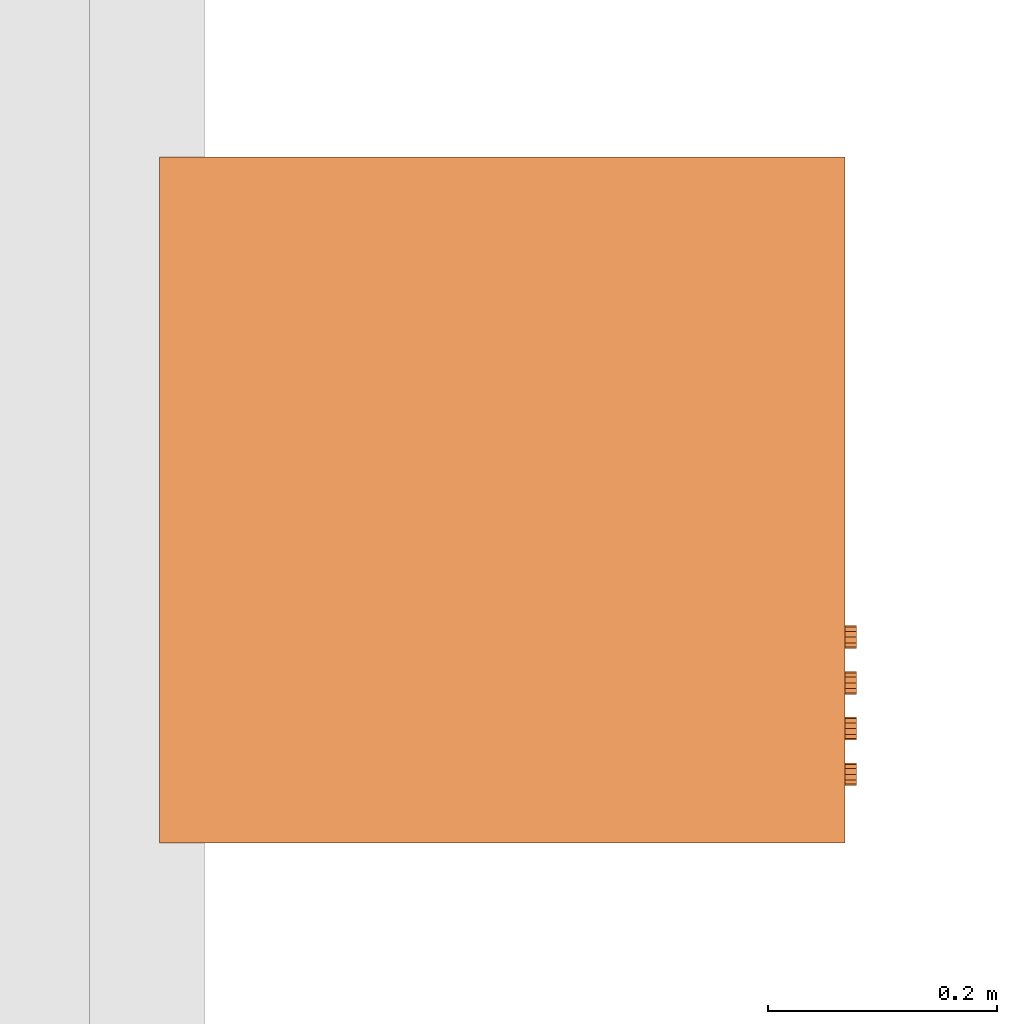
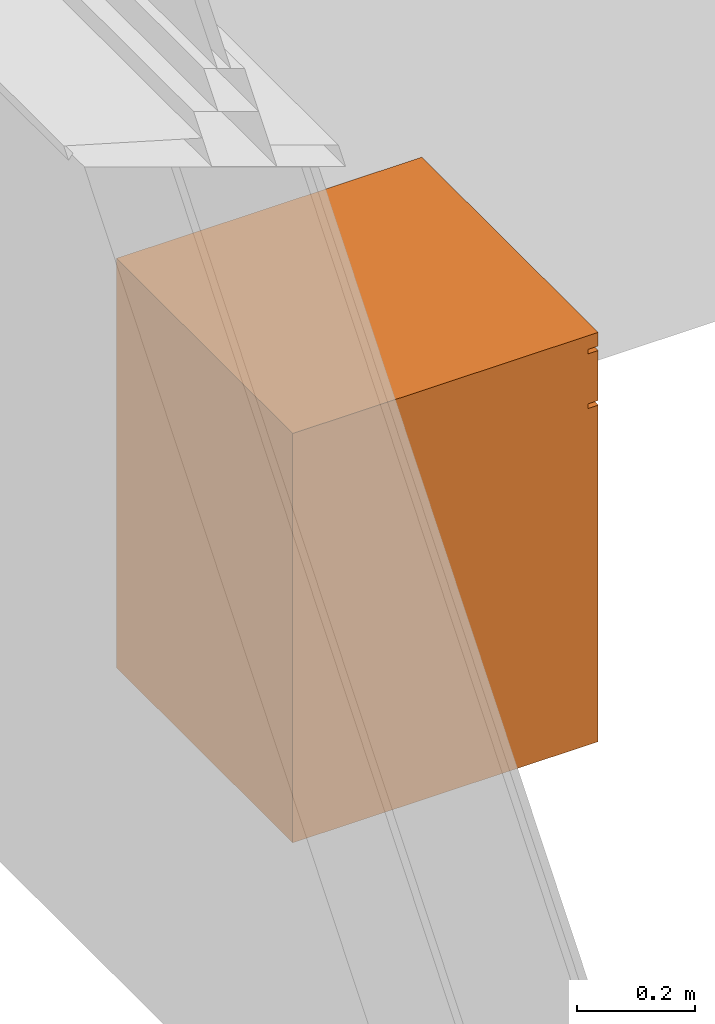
# One storey, part 6 of 6: 1 proxy.
"""IFC2X3 building model written with IfcOpenShell, lengths in millimetres."""

from ifc_helpers import new_model, entity, si_unit, converted_unit, derived_unit, money_unit, direction, frame, origin_with_axes, place, context, subcontext, project, spatial, open_shell, faceted_brep, surface_model, type_object, element, save


model = new_model("IFC2X3")

# Units and contexts
model_context = context("Model", 3, precision=0.01, world=origin_with_axes(), true_north=direction((0.0, 1.0)))
body_context = subcontext(model_context, "Body", "Model", "MODEL_VIEW")
ifc_project = project(units=[si_unit("LENGTHUNIT", "METRE", prefix="MILLI"), si_unit("AREAUNIT", "SQUARE_METRE"), si_unit("VOLUMEUNIT", "CUBIC_METRE"), converted_unit("PLANEANGLEUNIT", "DEGREE", entity("IfcPlaneAngleMeasure", 0.0174532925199), si_unit("PLANEANGLEUNIT", "RADIAN"), dimensions=[0, 0, 0, 0, 0, 0, 0]), si_unit("SOLIDANGLEUNIT", "STERADIAN"), money_unit("USD"), converted_unit("TIMEUNIT", "Year", entity("IfcTimeMeasure", 31556926.0), si_unit("TIMEUNIT", "SECOND"), dimensions=[0, 0, 1, 0, 0, 0, 0]), si_unit("MASSUNIT", "GRAM", prefix="KILO"), si_unit("THERMODYNAMICTEMPERATUREUNIT", "DEGREE_CELSIUS"), si_unit("LUMINOUSINTENSITYUNIT", "LUMEN"), si_unit("ENERGYUNIT", "JOULE", prefix="MEGA"), derived_unit("THERMALCONDUCTANCEUNIT", [(si_unit("POWERUNIT", "WATT"), 1), (si_unit("LENGTHUNIT", "METRE"), -1), (si_unit("THERMODYNAMICTEMPERATUREUNIT", "KELVIN"), -1)]), derived_unit("SPECIFICHEATCAPACITYUNIT", [(si_unit("ENERGYUNIT", "JOULE"), 1), (si_unit("MASSUNIT", "GRAM", prefix="KILO"), -1), (si_unit("THERMODYNAMICTEMPERATUREUNIT", "KELVIN"), -1)]), derived_unit("MASSDENSITYUNIT", [(si_unit("MASSUNIT", "GRAM", prefix="KILO"), 1), (si_unit("VOLUMEUNIT", "CUBIC_METRE"), -1)])], contexts=[model_context])

# Site, building, storey
site_placement = place(None, origin_with_axes())
site = spatial("IfcSite", under=ifc_project, at=site_placement, Name="Lokalizacja", CompositionType="ELEMENT")
building_placement = place(site_placement, origin_with_axes())
building = spatial("IfcBuilding", under=site, at=building_placement, Name="Budynek", CompositionType="ELEMENT")
storey_placement = place(building_placement, origin_with_axes())
storey = spatial("IfcBuildingStorey", under=building, at=storey_placement, Name="EG", CompositionType="ELEMENT", Elevation=0.0)

# Proxy
building_element_proxy_type = type_object("IfcBuildingElementProxyType", Name="Suszarka do ubrań 24", PredefinedType="NOTDEFINED")
proxy_placement = place(storey_placement, frame((599.975000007, -5727.56705031, 0.0), z_axis=(0.0, 0.0, 1.0), x_axis=(0.0, 1.0, 0.0)))
element("IfcBuildingElementProxy", 1, at=proxy_placement, inside=storey, type_object=building_element_proxy_type, Name="OB5", context=body_context, shape_type="SurfaceModel", body=[
    faceted_brep([(0.0, 20.0000000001, 0.0), (600.0, 20.0000000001, 0.0), (600.0, 0.0, 0.0), (0.0, 0.0, 0.0), (0.0, 20.0000000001, 698.888888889), (600.0, 20.0000000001, 698.888888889), (470.0, 20.0000000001, 349.444444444), (447.224318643, 20.0000000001, 434.444444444), (385.0, 20.0000000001, 496.668763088), (300.0, 20.0000000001, 519.444444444), (215.0, 20.0000000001, 496.668763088), (152.775681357, 20.0000000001, 434.444444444), (130.0, 20.0000000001, 349.444444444), (152.775681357, 20.0000000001, 264.444444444), (215.0, 20.0000000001, 202.220125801), (300.0, 20.0000000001, 179.444444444), (385.0, 20.0000000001, 202.220125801), (447.224318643, 20.0000000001, 264.444444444), (600.0, 0.0, 698.888888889), (0.0, 0.0, 698.888888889), (470.0, 0.0, 349.444444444), (447.224318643, 0.0, 264.444444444), (385.0, 0.0, 202.220125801), (300.0, 0.0, 179.444444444), (215.0, 0.0, 202.220125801), (152.775681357, 0.0, 264.444444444), (130.0, 0.0, 349.444444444), (152.775681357, 0.0, 434.444444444), (215.0, 0.0, 496.668763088), (300.0, 0.0, 519.444444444), (385.0, 0.0, 496.668763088), (447.224318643, 0.0, 434.444444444)], [[[0, 1, 2, 3]], [[0, 4, 5, 1], [6, 7, 8, 9, 10, 11, 12, 13, 14, 15, 16, 17]], [[1, 5, 18, 2]], [[3, 2, 18, 19], [20, 21, 22, 23, 24, 25, 26, 27, 28, 29, 30, 31]], [[4, 0, 3, 19]], [[5, 4, 19, 18]], [[7, 6, 20, 31]], [[8, 7, 31, 30]], [[9, 8, 30, 29]], [[10, 9, 29, 28]], [[11, 10, 28, 27]], [[12, 11, 27, 26]], [[13, 12, 26, 25]], [[14, 13, 25, 24]], [[15, 14, 24, 23]], [[16, 15, 23, 22]], [[17, 16, 22, 21]], [[6, 17, 21, 20]]]),
    faceted_brep([(470.0, 40.0000000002, 349.444444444), (447.224318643, 40.0000000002, 434.444444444), (447.224318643, 20.0000000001, 434.444444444), (470.0, 20.0000000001, 349.444444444), (447.224318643, 40.0000000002, 264.444444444), (385.0, 40.0000000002, 202.220125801), (300.0, 40.0000000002, 179.444444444), (215.0, 40.0000000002, 202.220125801), (152.775681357, 40.0000000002, 264.444444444), (130.0, 40.0000000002, 349.444444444), (152.775681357, 40.0000000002, 434.444444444), (215.0, 40.0000000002, 496.668763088), (300.0, 40.0000000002, 519.444444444), (385.0, 40.0000000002, 496.668763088), (436.0, 40.0000000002, 349.444444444), (417.779454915, 40.0000000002, 417.444444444), (368.0, 40.0000000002, 467.223899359), (300.0, 40.0000000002, 485.444444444), (232.0, 40.0000000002, 467.223899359), (182.220545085, 40.0000000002, 417.444444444), (164.0, 40.0000000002, 349.444444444), (182.220545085, 40.0000000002, 281.444444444), (232.0, 40.0000000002, 231.66498953), (300.0, 40.0000000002, 213.444444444), (368.0, 40.0000000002, 231.66498953), (417.779454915, 40.0000000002, 281.444444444), (385.0, 20.0000000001, 496.668763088), (300.0, 20.0000000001, 519.444444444), (215.0, 20.0000000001, 496.668763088), (152.775681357, 20.0000000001, 434.444444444), (130.0, 20.0000000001, 349.444444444), (152.775681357, 20.0000000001, 264.444444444), (215.0, 20.0000000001, 202.220125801), (300.0, 20.0000000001, 179.444444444), (385.0, 20.0000000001, 202.220125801), (447.224318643, 20.0000000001, 264.444444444), (436.0, 20.0000000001, 349.444444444), (417.779454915, 20.0000000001, 281.444444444), (368.0, 20.0000000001, 231.66498953), (300.0, 20.0000000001, 213.444444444), (232.0, 20.0000000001, 231.66498953), (182.220545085, 20.0000000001, 281.444444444), (164.0, 20.0000000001, 349.444444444), (182.220545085, 20.0000000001, 417.444444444), (232.0, 20.0000000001, 467.223899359), (300.0, 20.0000000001, 485.444444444), (368.0, 20.0000000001, 467.223899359), (417.779454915, 20.0000000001, 417.444444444)], [[[0, 1, 2, 3]], [[0, 4, 5, 6, 7, 8, 9, 10, 11, 12, 13, 1], [14, 15, 16, 17, 18, 19, 20, 21, 22, 23, 24, 25]], [[1, 13, 26, 2]], [[3, 2, 26, 27, 28, 29, 30, 31, 32, 33, 34, 35], [36, 37, 38, 39, 40, 41, 42, 43, 44, 45, 46, 47]], [[4, 0, 3, 35]], [[5, 4, 35, 34]], [[6, 5, 34, 33]], [[7, 6, 33, 32]], [[8, 7, 32, 31]], [[9, 8, 31, 30]], [[10, 9, 30, 29]], [[11, 10, 29, 28]], [[12, 11, 28, 27]], [[13, 12, 27, 26]], [[15, 14, 36, 47]], [[16, 15, 47, 46]], [[17, 16, 46, 45]], [[18, 17, 45, 44]], [[19, 18, 44, 43]], [[20, 19, 43, 42]], [[21, 20, 42, 41]], [[22, 21, 41, 40]], [[23, 22, 40, 39]], [[24, 23, 39, 38]], [[25, 24, 38, 37]], [[14, 25, 37, 36]]]),
    surface_model("IfcShellBasedSurfaceModel", [(232.0, 40.0000000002, 467.223899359), (300.0, 40.0000000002, 485.444444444), (300.0, 140.000000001, 451.444444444), (249.0, 140.000000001, 437.77903563), (368.0, 40.0000000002, 467.223899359), (351.0, 140.000000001, 437.77903563), (388.334591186, 140.000000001, 400.444444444), (402.0, 140.000000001, 349.444444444), (388.334591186, 140.000000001, 298.444444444), (351.0, 140.000000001, 261.109853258), (300.0, 140.000000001, 247.444444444), (249.0, 140.000000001, 261.109853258), (211.665408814, 140.000000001, 298.444444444), (198.0, 140.000000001, 349.444444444), (211.665408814, 140.000000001, 400.444444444), (182.220545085, 40.0000000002, 417.444444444), (417.779454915, 40.0000000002, 417.444444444), (436.0, 40.0000000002, 349.444444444), (417.779454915, 40.0000000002, 281.444444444), (368.0, 40.0000000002, 231.66498953), (300.0, 40.0000000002, 213.444444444), (232.0, 40.0000000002, 231.66498953), (182.220545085, 40.0000000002, 281.444444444), (164.0, 40.0000000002, 349.444444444)], [open_shell([[[0, 1, 2, 3]], [[1, 4, 5, 2]], [[2, 5, 6, 7, 8, 9, 10, 11, 12, 13, 14, 3]], [[15, 0, 3, 14]], [[4, 16, 6, 5]], [[16, 17, 7, 6]], [[17, 18, 8, 7]], [[18, 19, 9, 8]], [[19, 20, 10, 9]], [[20, 21, 11, 10]], [[21, 22, 12, 11]], [[22, 23, 13, 12]], [[23, 15, 14, 13]]])]),
    surface_model("IfcShellBasedSurfaceModel", [(0.0, 20.0000000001, 0.0), (0.0, 20.0000000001, 821.666666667), (0.0, 600.000000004, 821.666666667), (0.0, 600.000000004, 0.0)], [open_shell([[[0, 1, 2, 3]]])]),
    surface_model("IfcShellBasedSurfaceModel", [(600.0, 20.0000000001, 0.0), (600.0, 20.0000000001, 821.666666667), (600.0, 600.000000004, 821.666666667), (600.0, 600.000000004, 0.0)], [open_shell([[[0, 1, 2, 3]]])]),
    surface_model("IfcShellBasedSurfaceModel", [(0.0, 600.000000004, 0.0), (0.0, 600.000000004, 821.666666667), (600.0, 600.000000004, 821.666666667), (600.0, 600.000000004, 0.0)], [open_shell([[[0, 1, 2, 3]]])]),
    surface_model("IfcShellBasedSurfaceModel", [(0.0, 600.000000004, 0.0), (0.0, 20.0000000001, 0.0), (600.0, 20.0000000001, 0.0), (600.0, 600.000000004, 0.0)], [open_shell([[[0, 1, 2, 3]]])]),
    faceted_brep([(0.0, 20.0000000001, 708.333333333), (600.0, 20.0000000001, 708.333333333), (600.0, 0.0, 708.333333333), (0.0, 0.0, 708.333333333), (0.0, 20.0000000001, 812.222222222), (600.0, 20.0000000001, 812.222222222), (600.0, 0.0, 812.222222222), (0.0, 0.0, 812.222222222)], [[[0, 1, 2, 3]], [[0, 4, 5, 1]], [[1, 5, 6, 2]], [[3, 2, 6, 7]], [[4, 0, 3, 7]], [[5, 4, 7, 6]]]),
    surface_model("IfcShellBasedSurfaceModel", [(0.0, 20.0000000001, 698.888888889), (0.0, 20.0000000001, 821.666666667), (600.0, 20.0000000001, 821.666666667), (600.0, 20.0000000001, 698.888888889)], [open_shell([[[0, 1, 2, 3]]])]),
    faceted_brep([(0.0, 0.0, 821.666666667), (600.0, 0.0, 821.666666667), (600.0, 0.0, 850.0), (0.0, 0.0, 850.0), (0.0, 600.000000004, 821.666666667), (600.0, 600.000000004, 821.666666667), (600.0, 600.000000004, 850.0), (0.0, 600.000000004, 850.0)], [[[0, 1, 2, 3]], [[0, 4, 5, 1]], [[1, 5, 6, 2]], [[3, 2, 6, 7]], [[4, 0, 3, 7]], [[5, 4, 7, 6]]]),
    faceted_brep([(68.6602540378, 0.0, 760.0), (65.0, 0.0, 756.339745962), (60.0, 0.0, 755.0), (55.0, 0.0, 756.339745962), (51.3397459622, 0.0, 760.0), (50.0, 0.0, 765.0), (51.3397459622, 0.0, 770.0), (55.0, 0.0, 773.660254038), (60.0, 0.0, 775.0), (65.0, 0.0, 773.660254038), (68.6602540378, 0.0, 770.0), (70.0, 0.0, 765.0), (68.6602540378, -10.0000000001, 760.0), (65.0, -10.0000000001, 756.339745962), (60.0, -10.0000000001, 755.0), (55.0, -10.0000000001, 756.339745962), (51.3397459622, -10.0000000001, 760.0), (50.0, -10.0000000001, 765.0), (51.3397459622, -10.0000000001, 770.0), (55.0, -10.0000000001, 773.660254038), (60.0, -10.0000000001, 775.0), (65.0, -10.0000000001, 773.660254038), (68.6602540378, -10.0000000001, 770.0), (70.0, -10.0000000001, 765.0)], [[[0, 1, 2, 3, 4, 5, 6, 7, 8, 9, 10, 11]], [[1, 0, 12, 13]], [[2, 1, 13, 14]], [[3, 2, 14, 15]], [[4, 3, 15, 16]], [[5, 4, 16, 17]], [[6, 5, 17, 18]], [[7, 6, 18, 19]], [[8, 7, 19, 20]], [[9, 8, 20, 21]], [[10, 9, 21, 22]], [[11, 10, 22, 23]], [[0, 11, 23, 12]], [[12, 23, 22, 21, 20, 19, 18, 17, 16, 15, 14, 13]]]),
    faceted_brep([(108.660254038, 0.0, 760.0), (105.0, 0.0, 756.339745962), (100.0, 0.0, 755.0), (95.0, 0.0, 756.339745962), (91.3397459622, 0.0, 760.0), (90.0, 0.0, 765.0), (91.3397459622, 0.0, 770.0), (95.0, 0.0, 773.660254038), (100.0, 0.0, 775.0), (105.0, 0.0, 773.660254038), (108.660254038, 0.0, 770.0), (110.0, 0.0, 765.0), (108.660254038, -10.0000000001, 760.0), (105.0, -10.0000000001, 756.339745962), (100.0, -10.0000000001, 755.0), (95.0, -10.0000000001, 756.339745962), (91.3397459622, -10.0000000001, 760.0), (90.0, -10.0000000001, 765.0), (91.3397459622, -10.0000000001, 770.0), (95.0, -10.0000000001, 773.660254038), (100.0, -10.0000000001, 775.0), (105.0, -10.0000000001, 773.660254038), (108.660254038, -10.0000000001, 770.0), (110.0, -10.0000000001, 765.0)], [[[0, 1, 2, 3, 4, 5, 6, 7, 8, 9, 10, 11]], [[1, 0, 12, 13]], [[2, 1, 13, 14]], [[3, 2, 14, 15]], [[4, 3, 15, 16]], [[5, 4, 16, 17]], [[6, 5, 17, 18]], [[7, 6, 18, 19]], [[8, 7, 19, 20]], [[9, 8, 20, 21]], [[10, 9, 21, 22]], [[11, 10, 22, 23]], [[0, 11, 23, 12]], [[12, 23, 22, 21, 20, 19, 18, 17, 16, 15, 14, 13]]]),
    faceted_brep([(148.660254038, 0.0, 760.0), (145.0, 0.0, 756.339745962), (140.0, 0.0, 755.0), (135.0, 0.0, 756.339745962), (131.339745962, 0.0, 760.0), (130.0, 0.0, 765.0), (131.339745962, 0.0, 770.0), (135.0, 0.0, 773.660254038), (140.0, 0.0, 775.0), (145.0, 0.0, 773.660254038), (148.660254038, 0.0, 770.0), (150.0, 0.0, 765.0), (148.660254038, -10.0000000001, 760.0), (145.0, -10.0000000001, 756.339745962), (140.0, -10.0000000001, 755.0), (135.0, -10.0000000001, 756.339745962), (131.339745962, -10.0000000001, 760.0), (130.0, -10.0000000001, 765.0), (131.339745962, -10.0000000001, 770.0), (135.0, -10.0000000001, 773.660254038), (140.0, -10.0000000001, 775.0), (145.0, -10.0000000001, 773.660254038), (148.660254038, -10.0000000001, 770.0), (150.0, -10.0000000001, 765.0)], [[[0, 1, 2, 3, 4, 5, 6, 7, 8, 9, 10, 11]], [[1, 0, 12, 13]], [[2, 1, 13, 14]], [[3, 2, 14, 15]], [[4, 3, 15, 16]], [[5, 4, 16, 17]], [[6, 5, 17, 18]], [[7, 6, 18, 19]], [[8, 7, 19, 20]], [[9, 8, 20, 21]], [[10, 9, 21, 22]], [[11, 10, 22, 23]], [[0, 11, 23, 12]], [[12, 23, 22, 21, 20, 19, 18, 17, 16, 15, 14, 13]]]),
    faceted_brep([(188.660254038, 0.0, 760.0), (185.0, 0.0, 756.339745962), (180.0, 0.0, 755.0), (175.0, 0.0, 756.339745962), (171.339745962, 0.0, 760.0), (170.0, 0.0, 765.0), (171.339745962, 0.0, 770.0), (175.0, 0.0, 773.660254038), (180.0, 0.0, 775.0), (185.0, 0.0, 773.660254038), (188.660254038, 0.0, 770.0), (190.0, 0.0, 765.0), (188.660254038, -10.0000000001, 760.0), (185.0, -10.0000000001, 756.339745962), (180.0, -10.0000000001, 755.0), (175.0, -10.0000000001, 756.339745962), (171.339745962, -10.0000000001, 760.0), (170.0, -10.0000000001, 765.0), (171.339745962, -10.0000000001, 770.0), (175.0, -10.0000000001, 773.660254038), (180.0, -10.0000000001, 775.0), (185.0, -10.0000000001, 773.660254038), (188.660254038, -10.0000000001, 770.0), (190.0, -10.0000000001, 765.0)], [[[0, 1, 2, 3, 4, 5, 6, 7, 8, 9, 10, 11]], [[1, 0, 12, 13]], [[2, 1, 13, 14]], [[3, 2, 14, 15]], [[4, 3, 15, 16]], [[5, 4, 16, 17]], [[6, 5, 17, 18]], [[7, 6, 18, 19]], [[8, 7, 19, 20]], [[9, 8, 20, 21]], [[10, 9, 21, 22]], [[11, 10, 22, 23]], [[0, 11, 23, 12]], [[12, 23, 22, 21, 20, 19, 18, 17, 16, 15, 14, 13]]]),
])

save(model, "model.ifc")
